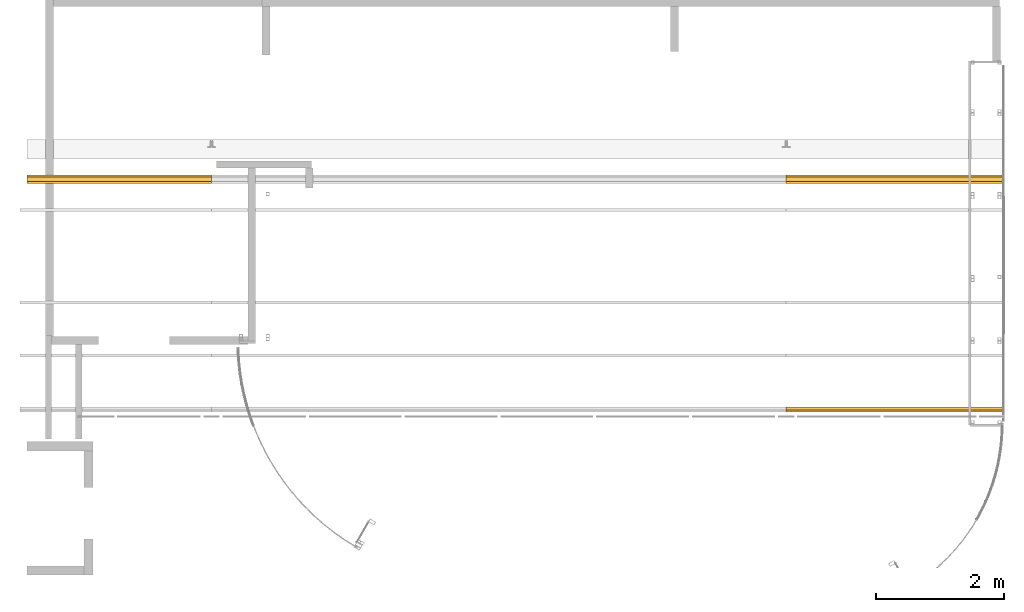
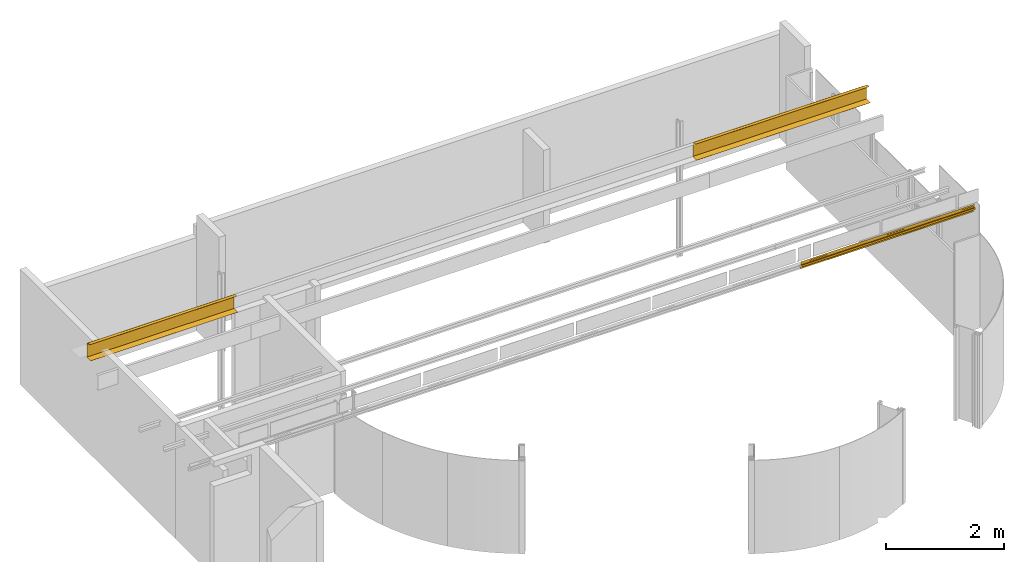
# One storey, part 10 of 11: 3 coverings.
"""IFC2X3 building model written with IfcOpenShell, lengths in millimetres."""

from ifc_helpers import new_model, entity, si_unit, converted_unit, derived_unit, direction, frame, origin_with_axes, place, context, subcontext, project, spatial, faceted_brep, type_object, element, save


model = new_model("IFC2X3")

# Units and contexts
model_context = context("Model", 3, precision=0.01, world=frame((0.0, 4.29681676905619e-09, 0.0)), true_north=direction((4.01073788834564e-13, 1.0)))
plan_context = context("Plan", 3, precision=0.01, world=frame((0.0, 4.29681676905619e-09, 0.0)), true_north=direction((4.01073788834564e-13, 1.0)))
body_context = subcontext(model_context, "Body", "Model", "MODEL_VIEW")
ifc_project = project(units=[converted_unit("PLANEANGLEUNIT", "DEGREE", entity("IfcPositiveLengthMeasure", 0.0174532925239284), si_unit("PLANEANGLEUNIT", "RADIAN"), dimensions=[0, 0, 0, 0, 0, 0, 0]), si_unit("AREAUNIT", "SQUARE_METRE"), si_unit("LENGTHUNIT", "METRE", prefix="MILLI"), si_unit("MASSUNIT", "GRAM", prefix="KILO"), si_unit("POWERUNIT", "WATT"), si_unit("PRESSUREUNIT", "PASCAL"), si_unit("FORCEUNIT", "NEWTON", prefix="KILO"), si_unit("ELECTRICVOLTAGEUNIT", "VOLT"), si_unit("ELECTRICCURRENTUNIT", "AMPERE"), si_unit("THERMODYNAMICTEMPERATUREUNIT", "DEGREE_CELSIUS"), si_unit("TIMEUNIT", "SECOND"), si_unit("VOLUMEUNIT", "CUBIC_METRE"), derived_unit("LINEARVELOCITYUNIT", [(si_unit("LENGTHUNIT", "METRE"), 1), (si_unit("TIMEUNIT", "SECOND"), -1)]), derived_unit("VOLUMETRICFLOWRATEUNIT", [(si_unit("VOLUMEUNIT", "CUBIC_METRE"), 1), (si_unit("TIMEUNIT", "SECOND"), -1)]), derived_unit("THERMALTRANSMITTANCEUNIT", [(si_unit("POWERUNIT", "WATT"), 1), (si_unit("THERMODYNAMICTEMPERATUREUNIT", "KELVIN"), -1), (si_unit("AREAUNIT", "SQUARE_METRE"), -1)]), derived_unit("SOUNDPRESSUREUNIT", [(si_unit("PRESSUREUNIT", "PASCAL"), 1)])], contexts=[model_context, plan_context])

# Site, building, storey
site_placement = place(None, origin_with_axes())
site = spatial("IfcSite", under=ifc_project, at=site_placement, Name="ENGM", CompositionType="ELEMENT")
building_placement = place(site_placement, origin_with_axes())
building = spatial("IfcBuilding", under=site, at=building_placement, Name="TH", CompositionType="ELEMENT")
storey_placement = place(building_placement, frame((0.0, 0.0, 210900.0), z_axis=(0.0, 0.0, 1.0), x_axis=(1.0, 0.0, 0.0)))
storey = spatial("IfcBuildingStorey", under=building, at=storey_placement, Name="Nivå F", CompositionType="ELEMENT", Elevation=210900.0)

# Coverings
covering_type_1 = type_object("IfcCoveringType", Name="A255 - eksisterende beslag mellom himling - pirF_type__C:A255 - eksisterende beslag mellom himling - Type C", PredefinedType="NOTDEFINED")
covering_1_placement = place(storey_placement, origin_with_axes())
element("IfcCovering", 1, at=covering_1_placement, inside=storey, type_object=covering_type_1, Name="A255 - eksisterende beslag mellom himling - pirF_type__C:A255 - eksisterende beslag mellom himling - Type C", ObjectType="A255 - eksisterende beslag mellom himling - pirF_type__C:A255 - eksisterende beslag mellom himling - Type C", PredefinedType="NOTDEFINED", context=body_context, shape_type="Brep", body=[
    faceted_brep([(895111.906168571, 484556.999999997, 2634.99999999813), (895111.906168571, 484589.999999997, 2634.99999999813), (898000.000000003, 484589.999999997, 2634.99999999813), (898000.000000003, 484556.999999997, 2634.99999999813), (895111.906168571, 484556.999999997, 2654.99999999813), (898000.000000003, 484556.999999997, 2654.99999999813), (895111.906168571, 484555.999999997, 2654.99999999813), (898000.000000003, 484555.999999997, 2654.99999999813), (895111.906168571, 484555.999999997, 2633.99999999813), (898000.000000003, 484555.999999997, 2633.99999999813), (895111.906168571, 484588.999999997, 2633.99999999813), (898000.000000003, 484588.999999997, 2633.99999999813), (895111.906168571, 484588.999999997, 2345.99999999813), (898000.000000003, 484588.999999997, 2345.99999999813), (895111.906168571, 484459.999999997, 2345.99999999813), (898000.000000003, 484459.999999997, 2345.99999999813), (895111.906168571, 484459.999999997, 2344.99999999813), (898000.000000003, 484459.999999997, 2344.99999999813), (895111.906168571, 484589.999999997, 2344.99999999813), (898000.000000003, 484589.999999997, 2344.99999999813)], [[[0, 1, 2, 3]], [[4, 0, 3, 5]], [[6, 4, 5, 7]], [[8, 6, 7, 9]], [[10, 8, 9, 11]], [[12, 10, 11, 13]], [[14, 12, 13, 15]], [[16, 14, 15, 17]], [[18, 16, 17, 19]], [[1, 18, 19, 2]], [[3, 2, 19, 17, 15, 13, 11, 9, 7, 5]], [[4, 6, 8, 10, 12, 14, 16, 18, 1, 0]]], orient=[[False], [False], [False], [False], [False], [False], [False], [False], [False], [False], [False], [False]]),
    faceted_brep([(895111.906168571, 484554.999999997, 2658.9999999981), (895111.906168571, 484492.999999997, 2658.9999999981), (898000.000000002, 484492.999999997, 2658.9999999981), (898000.000000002, 484554.999999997, 2658.9999999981), (895111.906168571, 484554.999999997, 2633.9999999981), (898000.000000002, 484554.999999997, 2633.9999999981), (895111.906168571, 484555.999999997, 2633.9999999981), (898000.000000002, 484555.999999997, 2633.9999999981), (895111.906168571, 484555.999999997, 2659.9999999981), (898000.000000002, 484555.999999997, 2659.9999999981), (895111.906168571, 484492.999999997, 2659.9999999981), (898000.000000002, 484492.999999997, 2659.9999999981)], [[[0, 1, 2, 3]], [[4, 0, 3, 5]], [[6, 4, 5, 7]], [[8, 6, 7, 9]], [[10, 8, 9, 11]], [[1, 10, 11, 2]], [[3, 2, 11, 9, 7, 5]], [[4, 6, 8, 10, 1, 0]]], orient=[[False], [False], [False], [False], [False], [False], [False], [False]]),
])
covering_2_placement = place(storey_placement, origin_with_axes())
element("IfcCovering", 2, at=covering_2_placement, inside=storey, type_object=covering_type_1, Name="A255 - eksisterende beslag mellom himling - pirF_type__C:A255 - eksisterende beslag mellom himling - Type C", ObjectType="A255 - eksisterende beslag mellom himling - pirF_type__C:A255 - eksisterende beslag mellom himling - Type C", PredefinedType="NOTDEFINED", context=body_context, shape_type="Brep", body=[
    faceted_brep([(910410.5848418, 484589.999999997, 2634.99999999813), (910410.5848418, 484556.999999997, 2634.99999999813), (907000.000000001, 484556.999999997, 2634.99999999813), (907000.000000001, 484589.999999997, 2634.99999999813), (910410.5848418, 484556.999999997, 2654.99999999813), (907000.000000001, 484556.999999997, 2654.99999999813), (910410.5848418, 484555.999999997, 2654.99999999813), (907000.000000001, 484555.999999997, 2654.99999999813), (910410.5848418, 484555.999999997, 2633.99999999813), (907000.000000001, 484555.999999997, 2633.99999999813), (910410.5848418, 484588.999999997, 2633.99999999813), (907000.000000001, 484588.999999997, 2633.99999999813), (910410.5848418, 484588.999999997, 2345.99999999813), (907000.000000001, 484588.999999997, 2345.99999999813), (910410.5848418, 484459.999999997, 2345.99999999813), (907000.000000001, 484459.999999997, 2345.99999999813), (910410.5848418, 484459.999999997, 2344.99999999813), (907000.000000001, 484459.999999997, 2344.99999999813), (910410.5848418, 484589.999999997, 2344.99999999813), (907000.000000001, 484589.999999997, 2344.99999999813)], [[[0, 1, 2, 3]], [[1, 4, 5, 2]], [[4, 6, 7, 5]], [[6, 8, 9, 7]], [[8, 10, 11, 9]], [[10, 12, 13, 11]], [[12, 14, 15, 13]], [[14, 16, 17, 15]], [[16, 18, 19, 17]], [[18, 0, 3, 19]], [[3, 2, 5, 7, 9, 11, 13, 15, 17, 19]], [[18, 16, 14, 12, 10, 8, 6, 4, 1, 0]]], orient=[[False], [False], [False], [False], [False], [False], [False], [False], [False], [False], [False], [False]]),
    faceted_brep([(910410.5848418, 484492.999999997, 2658.9999999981), (910410.5848418, 484554.999999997, 2658.9999999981), (907000.0, 484554.999999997, 2658.9999999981), (907000.0, 484492.999999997, 2658.9999999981), (910410.5848418, 484554.999999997, 2633.9999999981), (907000.0, 484554.999999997, 2633.9999999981), (910410.5848418, 484555.999999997, 2633.9999999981), (907000.0, 484555.999999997, 2633.9999999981), (910410.5848418, 484555.999999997, 2659.9999999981), (907000.0, 484555.999999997, 2659.9999999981), (910410.5848418, 484492.999999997, 2659.9999999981), (907000.0, 484492.999999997, 2659.9999999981)], [[[0, 1, 2, 3]], [[1, 4, 5, 2]], [[4, 6, 7, 5]], [[6, 8, 9, 7]], [[8, 10, 11, 9]], [[10, 0, 3, 11]], [[3, 2, 5, 7, 9, 11]], [[10, 8, 6, 4, 1, 0]]], orient=[[False], [False], [False], [False], [False], [False], [False], [False]]),
])
covering_type_2 = type_object("IfcCoveringType", Name="A255 - eksisterende beslag mellom himling - pirF_type__D:A255 - eksisterende beslag mellom himling - Type D", PredefinedType="NOTDEFINED")
covering_3_placement = place(storey_placement, origin_with_axes())
element("IfcCovering", 3, at=covering_3_placement, inside=storey, type_object=covering_type_2, Name="A255 - eksisterende beslag mellom himling - pirF_type__D:A255 - eksisterende beslag mellom himling - Type D", ObjectType="A255 - eksisterende beslag mellom himling - pirF_type__D:A255 - eksisterende beslag mellom himling - Type D", PredefinedType="NOTDEFINED", context=body_context, shape_type="Brep", body=[
    faceted_brep([(910410.5848418, 480960.999999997, 2301.0), (910410.5848418, 480880.999999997, 2301.0), (907000.0, 480880.999999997, 2301.0), (907000.0, 480960.999999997, 2301.0), (910410.5848418, 480880.999999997, 2339.0), (907000.0, 480880.999999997, 2339.0), (910410.5848418, 480890.999999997, 2339.0), (907000.0, 480890.999999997, 2339.0), (910410.5848418, 480890.999999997, 2332.0), (907000.0, 480890.999999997, 2332.0), (910410.5848418, 480891.999999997, 2332.0), (907000.0, 480891.999999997, 2332.0), (910410.5848418, 480891.999999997, 2340.0), (907000.0, 480891.999999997, 2340.0), (910410.5848418, 480879.999999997, 2340.0), (907000.0, 480879.999999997, 2340.0), (910410.5848418, 480879.999999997, 2300.0), (907000.0, 480879.999999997, 2300.0), (910410.5848418, 480959.999999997, 2300.0), (907000.0, 480959.999999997, 2300.0), (910410.5848418, 480959.999999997, 2241.0), (907000.0, 480959.999999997, 2241.0), (910410.5848418, 480919.999999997, 2241.0), (907000.0, 480919.999999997, 2241.0), (910410.5848418, 480919.999999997, 2240.0), (907000.0, 480919.999999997, 2240.0), (910410.5848418, 480960.999999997, 2240.0), (907000.0, 480960.999999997, 2240.0)], [[[0, 1, 2, 3]], [[1, 4, 5, 2]], [[4, 6, 7, 5]], [[6, 8, 9, 7]], [[8, 10, 11, 9]], [[10, 12, 13, 11]], [[12, 14, 15, 13]], [[14, 16, 17, 15]], [[16, 18, 19, 17]], [[18, 20, 21, 19]], [[20, 22, 23, 21]], [[22, 24, 25, 23]], [[24, 26, 27, 25]], [[26, 0, 3, 27]], [[3, 2, 5, 7, 9, 11, 13, 15, 17, 19, 21, 23, 25, 27]], [[26, 24, 22, 20, 18, 16, 14, 12, 10, 8, 6, 4, 1, 0]]], orient=[[False], [False], [False], [False], [False], [False], [False], [False], [False], [False], [False], [False], [False], [False], [False], [False]]),
    faceted_brep([(910410.5848418, 480887.999999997, 2330.00000000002), (910410.5848418, 480908.999999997, 2330.00000000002), (907000.0, 480908.999999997, 2330.00000000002), (907000.0, 480887.999999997, 2330.00000000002), (910410.5848418, 480908.999999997, 2363.0), (907000.0, 480908.999999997, 2363.0), (910410.5848418, 480907.999999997, 2363.0), (907000.0, 480907.999999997, 2363.0), (910410.5848418, 480907.999999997, 2331.00000000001), (907000.0, 480907.999999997, 2331.00000000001), (910410.5848418, 480888.999999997, 2331.00000000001), (907000.0, 480888.999999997, 2331.00000000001), (910410.5848418, 480888.999999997, 2339.00000000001), (907000.0, 480888.999999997, 2339.00000000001), (910410.5848418, 480887.999999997, 2339.00000000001), (907000.0, 480887.999999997, 2339.00000000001)], [[[0, 1, 2, 3]], [[1, 4, 5, 2]], [[4, 6, 7, 5]], [[6, 8, 9, 7]], [[8, 10, 11, 9]], [[10, 12, 13, 11]], [[12, 14, 15, 13]], [[14, 0, 3, 15]], [[3, 2, 5, 7, 9, 11, 13, 15]], [[14, 12, 10, 8, 6, 4, 1, 0]]], orient=[[False], [False], [False], [False], [False], [False], [False], [False], [False], [False]]),
    faceted_brep([(910410.5848418, 480909.999999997, 2332.0), (910410.5848418, 480909.999999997, 2395.0), (907000.0, 480909.999999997, 2395.0), (907000.0, 480909.999999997, 2332.0), (907000.0, 480908.999999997, 2395.0), (907000.0, 480908.999999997, 2332.0), (910410.5848418, 480908.999999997, 2395.0), (910410.5848418, 480908.999999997, 2332.0)], [[[0, 1, 2, 3]], [[3, 2, 4, 5]], [[6, 7, 5, 4]], [[7, 0, 3, 5]], [[1, 6, 4, 2]], [[7, 6, 1, 0]]], orient=[[False], [False], [False], [False], [False], [False]]),
])

save(model, "model.ifc")
